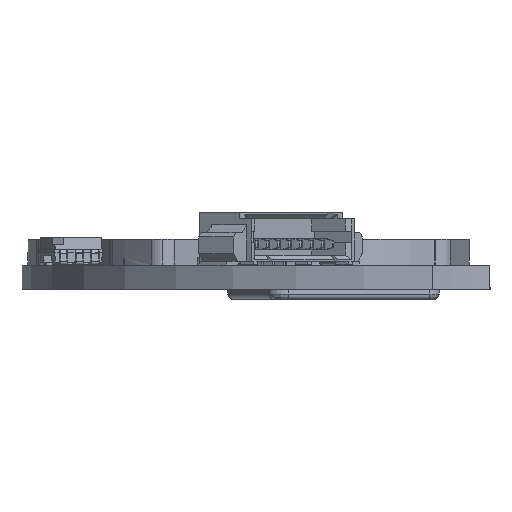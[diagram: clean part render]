
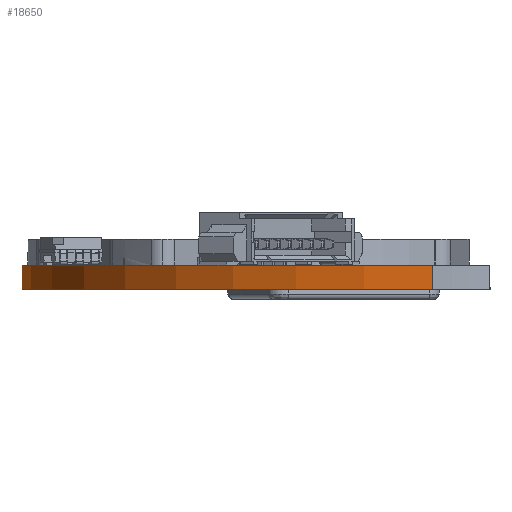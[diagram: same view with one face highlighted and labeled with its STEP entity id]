
A CAD part, left-side view. The second image highlights one B-rep face of the part: STEP entity #18650.
In plain terms, the highlighted cylindrical face has radius 27 mm (diameter 54 mm), a partial arc.
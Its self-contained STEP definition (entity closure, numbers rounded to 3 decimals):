
#945 = EDGE_CURVE ( 'NONE', #25422, #28634, #31198, .T. ) ;
#1671 = CARTESIAN_POINT ( 'NONE',  ( 3.187, 26.811, 0. ) ) ;
#3243 = CYLINDRICAL_SURFACE ( 'NONE', #36900, 27. ) ;
#3427 = CARTESIAN_POINT ( 'NONE',  ( -27., 0., -1.599 ) ) ;
#5418 = DIRECTION ( 'NONE',  ( -1., 0., 0. ) ) ;
#5870 = AXIS2_PLACEMENT_3D ( 'NONE', #22464, #16104, #12620 ) ;
#6007 = VERTEX_POINT ( 'NONE', #1671 ) ;
#8454 = CIRCLE ( 'NONE', #5870, 27. ) ;
#9464 = LINE ( 'NONE', #27290, #16141 ) ;
#9532 = DIRECTION ( 'NONE',  ( 0., 0., -1. ) ) ;
#11820 = ORIENTED_EDGE ( 'NONE', *, *, #35997, .F. ) ;
#12604 = CARTESIAN_POINT ( 'NONE',  ( -27., 0., 0. ) ) ;
#12620 = DIRECTION ( 'NONE',  ( 1., 0., 0. ) ) ;
#15012 = CARTESIAN_POINT ( 'NONE',  ( 0., 0., 0. ) ) ;
#16104 = DIRECTION ( 'NONE',  ( 0., 0., -1. ) ) ;
#16141 = VECTOR ( 'NONE', #36899, 1000. ) ;
#17772 = CIRCLE ( 'NONE', #32103, 27. ) ;
#18144 = CARTESIAN_POINT ( 'NONE',  ( -27., 0., -1.6 ) ) ;
#18650 = ADVANCED_FACE ( 'NONE', ( #21233 ), #3243, .T. ) ;
#21233 = FACE_OUTER_BOUND ( 'NONE', #40304, .T. ) ;
#22464 = CARTESIAN_POINT ( 'NONE',  ( 0., 0., -1.599 ) ) ;
#25289 = CARTESIAN_POINT ( 'NONE',  ( 0., 0., -1.6 ) ) ;
#25422 = VERTEX_POINT ( 'NONE', #12604 ) ;
#26224 = VERTEX_POINT ( 'NONE', #30593 ) ;
#27290 = CARTESIAN_POINT ( 'NONE',  ( 3.187, 26.811, -1.6 ) ) ;
#27987 = DIRECTION ( 'NONE',  ( 0., 0., -1. ) ) ;
#28559 = ORIENTED_EDGE ( 'NONE', *, *, #33746, .T. ) ;
#28579 = DIRECTION ( 'NONE',  ( -1., 0., 0. ) ) ;
#28634 = VERTEX_POINT ( 'NONE', #3427 ) ;
#28707 = EDGE_CURVE ( 'NONE', #6007, #26224, #9464, .T. ) ;
#29446 = ORIENTED_EDGE ( 'NONE', *, *, #945, .F. ) ;
#30593 = CARTESIAN_POINT ( 'NONE',  ( 3.187, 26.811, -1.599 ) ) ;
#30713 = DIRECTION ( 'NONE',  ( 0., 0., -1. ) ) ;
#31198 = LINE ( 'NONE', #18144, #31564 ) ;
#31564 = VECTOR ( 'NONE', #27987, 1000. ) ;
#32103 = AXIS2_PLACEMENT_3D ( 'NONE', #15012, #30713, #5418 ) ;
#33746 = EDGE_CURVE ( 'NONE', #25422, #6007, #17772, .T. ) ;
#35781 = ORIENTED_EDGE ( 'NONE', *, *, #28707, .T. ) ;
#35997 = EDGE_CURVE ( 'NONE', #28634, #26224, #8454, .T. ) ;
#36899 = DIRECTION ( 'NONE',  ( 0., 0., -1. ) ) ;
#36900 = AXIS2_PLACEMENT_3D ( 'NONE', #25289, #9532, #28579 ) ;
#40304 = EDGE_LOOP ( 'NONE', ( #29446, #28559, #35781, #11820 ) ) ;
